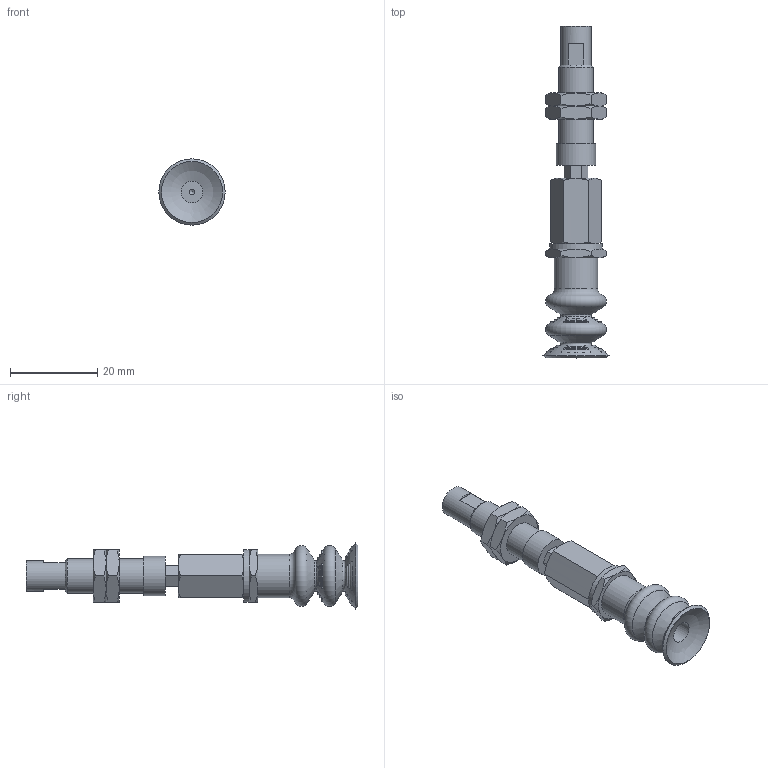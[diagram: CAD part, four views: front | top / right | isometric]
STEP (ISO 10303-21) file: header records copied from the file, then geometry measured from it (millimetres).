
FILE_DESCRIPTION(('STEP AP203'),'1');
FILE_NAME('.stp','2025-08-27T01:50:52',(' '),(' '),'Spatial InterOp 3D',' ',' ');
FILE_SCHEMA(('CONFIG_CONTROL_DESIGN'));
Length unit declared in the file: millimetre
Products named in the file (7): BNABPCTH-15-3-※; ADAPTER; NAPCTH-10-3-MBODY; Adapter_napc-15-T; Nut napc_h-15-3; NAPCTH-15-3-FBODY; BPCG-15-※
Assembly tree (7 placements, depth 2):
  BNABPCTH-15-3-※
    ADAPTER
    NAPCTH-10-3-MBODY
    Adapter_napc-15-T
    Nut napc_h-15-3  x2
    NAPCTH-15-3-FBODY
    BPCG-15-※
Bounding box: 15.2 x 76.2 x 15.2 mm (x, y, z)
Volume: 5443.9 mm3; surface area: 5565.2 mm2
Topology: 7 solids, 7 shells, 230 faces, 688 edges, 443 vertices
Faces by surface type: cone 63, plane 60, sphere 58, torus 34, cylinder 15
Full cylindrical faces by diameter (mm): 1.25 x1, 4.134 x2, 5 x5, 7 x1, 7.188 x2, 8 x1, 9 x1, 10 x1, 12 x1
Entity records: 6643 total; most frequent: CARTESIAN_POINT 1919, DIRECTION 950, ORIENTED_EDGE 822, AXIS2_PLACEMENT_3D 444, EDGE_CURVE 411, VERTEX_POINT 286, EDGE_LOOP 284, FACE_OUTER_BOUND 229
